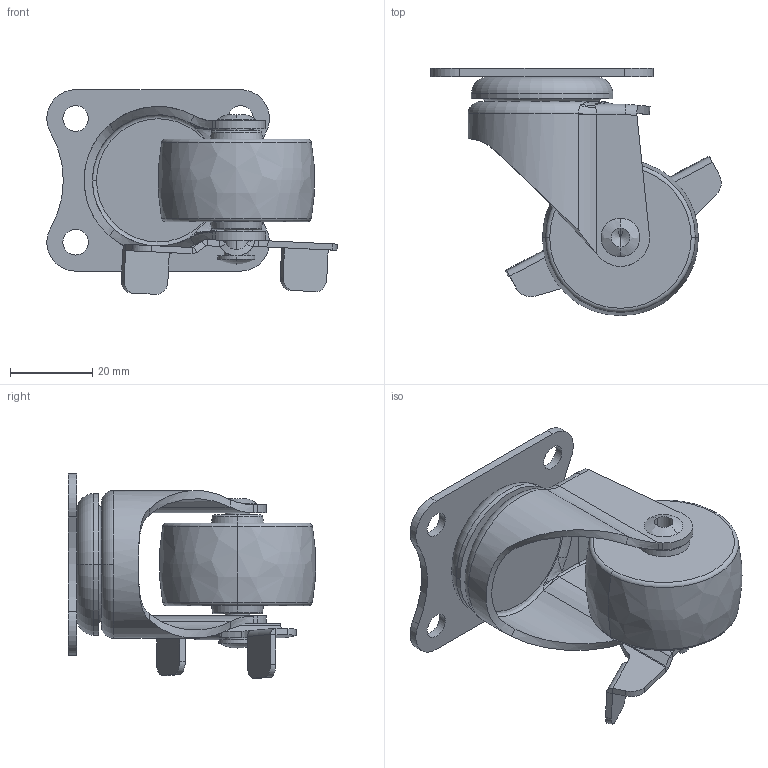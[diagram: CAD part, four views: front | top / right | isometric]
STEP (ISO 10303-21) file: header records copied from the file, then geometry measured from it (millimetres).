
FILE_DESCRIPTION((''),'2;1');
FILE_NAME('261115-2615-83_ASM','2019-12-14T',('L'),(''),'PRO/ENGINEER BY PARAMETRIC TECHNOLOGY CORPORATION, 2010280','PRO/ENGINEER BY PARAMETRIC TECHNOLOGY CORPORATION, 2010280','');
FILE_SCHEMA(('CONFIG_CONTROL_DESIGN'));
Length unit declared in the file: millimetre
Products named in the file (5): 261115; 2615-83; 2610-501; 2610-012; 261115-2615-83_ASM
Assembly tree (4 placements, depth 2):
  261115-2615-83_ASM
    261115
    2615-83
    2610-501
    2610-012
Bounding box: 70.44 x 59.9 x 49.64 mm (x, y, z)
Volume: 39170.7 mm3; surface area: 20093.2 mm2
Topology: 4 solids, 4 shells, 208 faces, 476 edges, 276 vertices
Faces by surface type: cylinder 70, plane 59, bspline 43, torus 22, cone 12, sphere 2
Entity records: 7807 total; most frequent: CARTESIAN_POINT 3196, ORIENTED_EDGE 936, DIRECTION 934, EDGE_CURVE 468, AXIS2_PLACEMENT_3D 372, VERTEX_POINT 276, EDGE_LOOP 232, FACE_OUTER_BOUND 208
